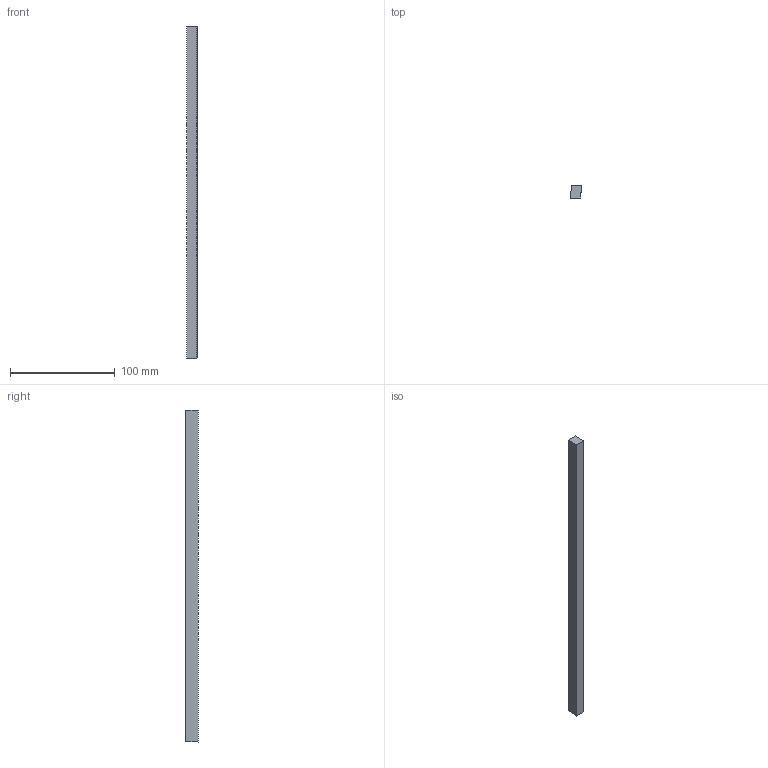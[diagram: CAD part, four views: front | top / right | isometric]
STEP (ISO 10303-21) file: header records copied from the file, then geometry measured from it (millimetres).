
FILE_DESCRIPTION(/* description */ (''),/* implementation_level */ '2;1');
FILE_NAME(/* name */ 'TRIM LEFT.stp',/* time_stamp */ '2024-07-15T18:29:45+02:00',/* author */ ('DUALO'),/* organization */ ('Intuitive Instruments'),/* preprocessor_version */ 'ST-DEVELOPER v19.2',/* originating_system */ 'Autodesk Inventor 2023',/* authorisation */ '');
FILE_SCHEMA (('CONFIG_CONTROL_DESIGN'));
Length unit declared in the file: millimetre
Products named in the file (1): DU03_2203_METAL SIDE TRIM LEFT revA
Bounding box: 10 x 12 x 316.46 mm (x, y, z)
Volume: 36182.8 mm3; surface area: 14119.8 mm2
Topology: 1 solids, 1 shells, 14 faces, 32 edges, 20 vertices
Faces by surface type: plane 6, cone 4, cylinder 4
Full cylindrical faces by diameter (mm): 2.459 x4
Entity records: 409 total; most frequent: DIRECTION 66, CARTESIAN_POINT 63, ORIENTED_EDGE 56, EDGE_CURVE 28, AXIS2_PLACEMENT_3D 23, LINE 20, VECTOR 20, VERTEX_POINT 20
